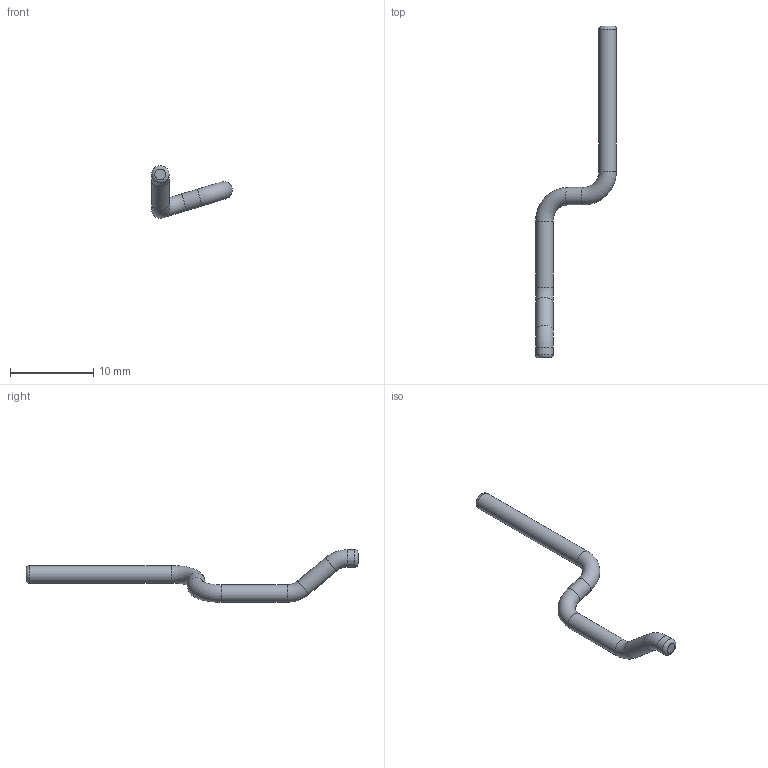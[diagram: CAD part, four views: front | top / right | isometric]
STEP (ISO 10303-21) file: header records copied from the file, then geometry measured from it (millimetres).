
FILE_DESCRIPTION(('Open CASCADE Model'),'2;1');
FILE_NAME('CUT_P01_SPEAKER_LEAD2_J9_BYPASS_0p4_FINAL', '2026-09-15T14:38:47',('Author'),('Open CASCADE'), 'Open CASCADE STEP processor 7.9','build123d','Unknown');
FILE_SCHEMA(('AUTOMOTIVE_DESIGN { 1 0 10303 214 1 1 1 1 }'));
Length unit declared in the file: millimetre
Products named in the file (1): CUT_P01_SPEAKER_LEAD2_J9_BYPASS_0p4_FINAL
Bounding box: 9.7 x 39.8 x 6.3 mm (x, y, z)
Volume: 160.7 mm3; surface area: 311.4 mm2
Topology: 1 solids, 1 shells, 13 faces, 23 edges, 12 vertices
Faces by surface type: torus 6, cylinder 5, plane 2
Full cylindrical faces by diameter (mm): 2.1 x5
Entity records: 624 total; most frequent: DIRECTION 115, CARTESIAN_POINT 95, LINE 49, VECTOR 49, ORIENTED_EDGE 46, PCURVE 46, DEFINITIONAL_REPRESENTATION 46, AXIS2_PLACEMENT_3D 32
